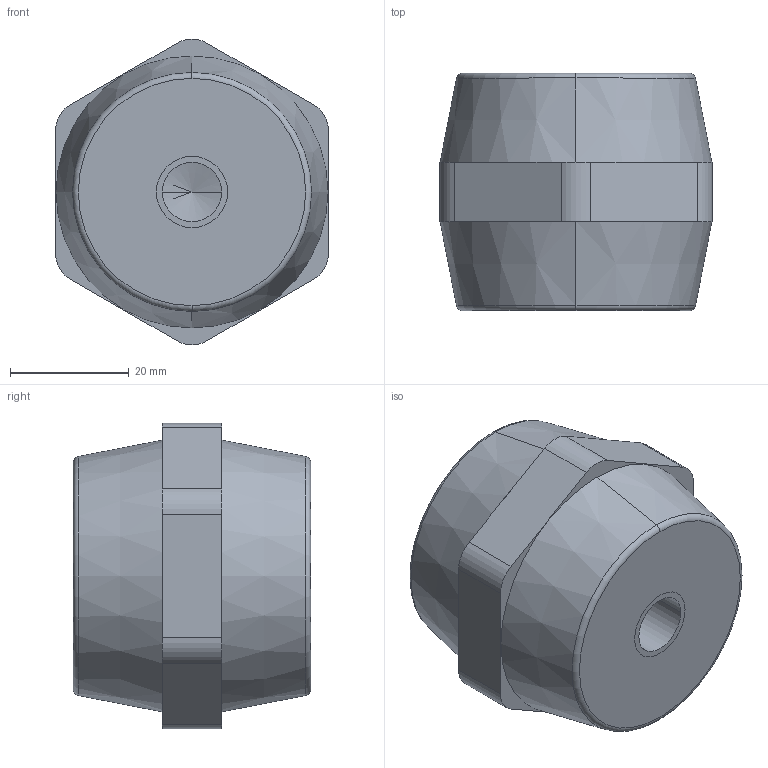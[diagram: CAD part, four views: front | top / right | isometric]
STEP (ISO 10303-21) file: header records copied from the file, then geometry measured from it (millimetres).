
FILE_DESCRIPTION (( 'STEP AP214' ), '1' );
FILE_NAME ('Isolatore 4120 46X40-M10.STEP', '2025-04-23T12:06:58', ( '' ), ( '' ), 'SwSTEP 2.0', 'SolidWorks 2020', '' );
FILE_SCHEMA (( 'AUTOMOTIVE_DESIGN' ));
Length unit declared in the file: millimetre
Products named in the file (1): Isolatore 4120 46X40-M10
Bounding box: 46 x 40 x 51.57 mm (x, y, z)
Volume: 60395 mm3; surface area: 11279.3 mm2
Topology: 3 solids, 3 shells, 75 faces, 167 edges, 100 vertices
Faces by surface type: cylinder 35, plane 20, cone 16, torus 4
Entity records: 2562 total; most frequent: DIRECTION 393, CARTESIAN_POINT 331, ORIENTED_EDGE 310, AXIS2_PLACEMENT_3D 162, EDGE_CURVE 155, VERTEX_POINT 100, EDGE_LOOP 89, CIRCLE 86
